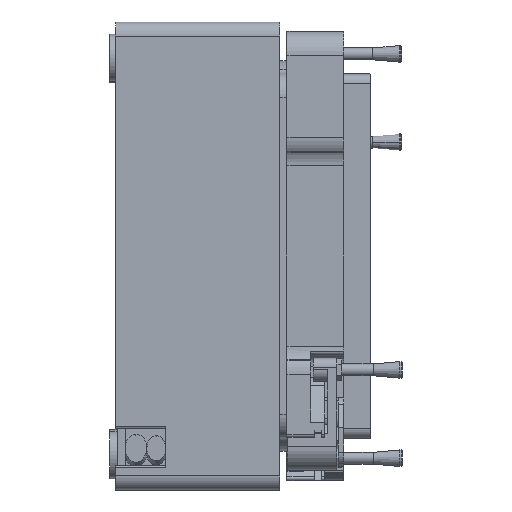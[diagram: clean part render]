
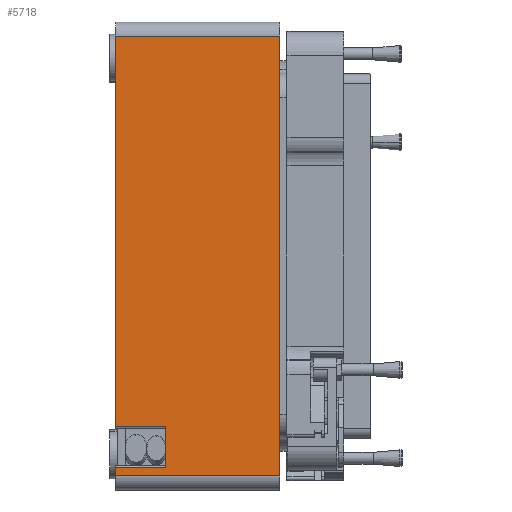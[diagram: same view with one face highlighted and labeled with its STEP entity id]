
A CAD part, left-side view. The second image highlights one B-rep face of the part: STEP entity #5718.
In plain terms, the highlighted planar face has unit normal (-1, 0, 0).
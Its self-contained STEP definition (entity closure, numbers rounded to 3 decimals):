
#511 = EDGE_CURVE ( 'NONE', #1370, #12678, #30294, .T. ) ;
#1370 = VERTEX_POINT ( 'NONE', #7620 ) ;
#3214 = ORIENTED_EDGE ( 'NONE', *, *, #47321, .F. ) ;
#5389 = EDGE_CURVE ( 'NONE', #1370, #29464, #9691, .T. ) ;
#5718 = ADVANCED_FACE ( 'NONE', ( #48362 ), #66055, .F. ) ;
#6548 = LINE ( 'NONE', #64385, #35091 ) ;
#7422 = VERTEX_POINT ( 'NONE', #45177 ) ;
#7536 = LINE ( 'NONE', #49189, #19252 ) ;
#7620 = CARTESIAN_POINT ( 'NONE',  ( -71., -34.7, -46.5 ) ) ;
#9642 = CARTESIAN_POINT ( 'NONE',  ( -71., -17.35, 46.5 ) ) ;
#9691 = LINE ( 'NONE', #35021, #44044 ) ;
#10097 = EDGE_CURVE ( 'NONE', #15477, #28504, #21746, .T. ) ;
#11335 = ORIENTED_EDGE ( 'NONE', *, *, #62746, .F. ) ;
#12678 = VERTEX_POINT ( 'NONE', #24596 ) ;
#13484 = VECTOR ( 'NONE', #63238, 1000. ) ;
#13668 = DIRECTION ( 'NONE',  ( 0., 0., 1. ) ) ;
#14717 = EDGE_CURVE ( 'NONE', #7422, #15477, #7536, .T. ) ;
#15477 = VERTEX_POINT ( 'NONE', #21959 ) ;
#16643 = CARTESIAN_POINT ( 'NONE',  ( -71., -10.6, -44.778 ) ) ;
#17909 = CARTESIAN_POINT ( 'NONE',  ( -71., -17.35, -46.5 ) ) ;
#18370 = AXIS2_PLACEMENT_3D ( 'NONE', #22502, #33070, #49524 ) ;
#19252 = VECTOR ( 'NONE', #22405, 1000. ) ;
#21318 = DIRECTION ( 'NONE',  ( 0., -1., 0. ) ) ;
#21746 = LINE ( 'NONE', #26570, #26802 ) ;
#21959 = CARTESIAN_POINT ( 'NONE',  ( -71., 0., -36.071 ) ) ;
#22321 = ORIENTED_EDGE ( 'NONE', *, *, #511, .F. ) ;
#22405 = DIRECTION ( 'NONE',  ( 0., 1., 0. ) ) ;
#22502 = CARTESIAN_POINT ( 'NONE',  ( -71., -34.7, 46.5 ) ) ;
#24596 = CARTESIAN_POINT ( 'NONE',  ( -71., 0., -46.5 ) ) ;
#25031 = VECTOR ( 'NONE', #34120, 1000. ) ;
#26570 = CARTESIAN_POINT ( 'NONE',  ( -71., 0., 0. ) ) ;
#26802 = VECTOR ( 'NONE', #36654, 1000. ) ;
#27012 = ORIENTED_EDGE ( 'NONE', *, *, #30876, .T. ) ;
#28224 = ORIENTED_EDGE ( 'NONE', *, *, #38088, .F. ) ;
#28504 = VERTEX_POINT ( 'NONE', #65809 ) ;
#29464 = VERTEX_POINT ( 'NONE', #65492 ) ;
#30294 = LINE ( 'NONE', #17909, #37002 ) ;
#30876 = EDGE_CURVE ( 'NONE', #29464, #28504, #42004, .T. ) ;
#33070 = DIRECTION ( 'NONE',  ( 1., 0., 0. ) ) ;
#34120 = DIRECTION ( 'NONE',  ( 0., 0., 1. ) ) ;
#35021 = CARTESIAN_POINT ( 'NONE',  ( -71., -34.7, 0. ) ) ;
#35091 = VECTOR ( 'NONE', #21318, 1000. ) ;
#36654 = DIRECTION ( 'NONE',  ( 0., 0., 1. ) ) ;
#37002 = VECTOR ( 'NONE', #66632, 1000. ) ;
#38088 = EDGE_CURVE ( 'NONE', #12678, #46100, #44304, .T. ) ;
#39045 = CARTESIAN_POINT ( 'NONE',  ( -71., 0., -46.873 ) ) ;
#39411 = CARTESIAN_POINT ( 'NONE',  ( -71., -10.6, 0. ) ) ;
#42004 = LINE ( 'NONE', #9642, #13484 ) ;
#44044 = VECTOR ( 'NONE', #13668, 1000. ) ;
#44304 = LINE ( 'NONE', #39045, #25031 ) ;
#44540 = EDGE_LOOP ( 'NONE', ( #66352, #11335, #3214, #28224, #22321, #48202, #27012, #47886 ) ) ;
#45177 = CARTESIAN_POINT ( 'NONE',  ( -71., -10.6, -36.071 ) ) ;
#46100 = VERTEX_POINT ( 'NONE', #56081 ) ;
#47321 = EDGE_CURVE ( 'NONE', #46100, #69222, #6548, .T. ) ;
#47886 = ORIENTED_EDGE ( 'NONE', *, *, #10097, .F. ) ;
#48202 = ORIENTED_EDGE ( 'NONE', *, *, #5389, .T. ) ;
#48362 = FACE_OUTER_BOUND ( 'NONE', #44540, .T. ) ;
#49189 = CARTESIAN_POINT ( 'NONE',  ( -71., -17.35, -36.071 ) ) ;
#49524 = DIRECTION ( 'NONE',  ( 0., 0., -1. ) ) ;
#50013 = DIRECTION ( 'NONE',  ( 0., 0., 1. ) ) ;
#52446 = LINE ( 'NONE', #39411, #65123 ) ;
#56081 = CARTESIAN_POINT ( 'NONE',  ( -71., 0., -44.778 ) ) ;
#62746 = EDGE_CURVE ( 'NONE', #69222, #7422, #52446, .T. ) ;
#63238 = DIRECTION ( 'NONE',  ( 0., 1., 0. ) ) ;
#64385 = CARTESIAN_POINT ( 'NONE',  ( -71., -17.35, -44.778 ) ) ;
#65123 = VECTOR ( 'NONE', #50013, 1000. ) ;
#65492 = CARTESIAN_POINT ( 'NONE',  ( -71., -34.7, 46.5 ) ) ;
#65809 = CARTESIAN_POINT ( 'NONE',  ( -71., 0., 46.5 ) ) ;
#66055 = PLANE ( 'NONE',  #18370 ) ;
#66352 = ORIENTED_EDGE ( 'NONE', *, *, #14717, .F. ) ;
#66632 = DIRECTION ( 'NONE',  ( 0., 1., 0. ) ) ;
#69222 = VERTEX_POINT ( 'NONE', #16643 ) ;
